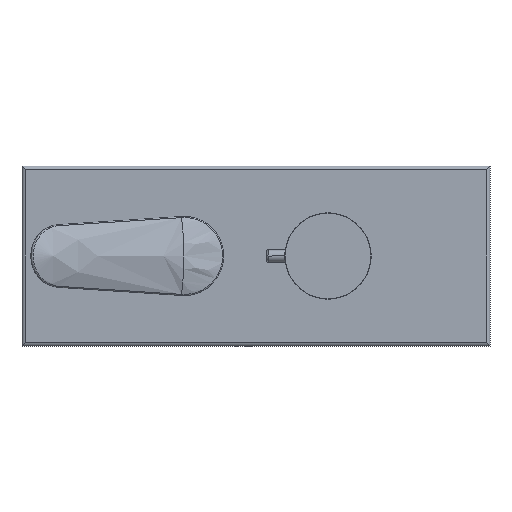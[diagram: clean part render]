
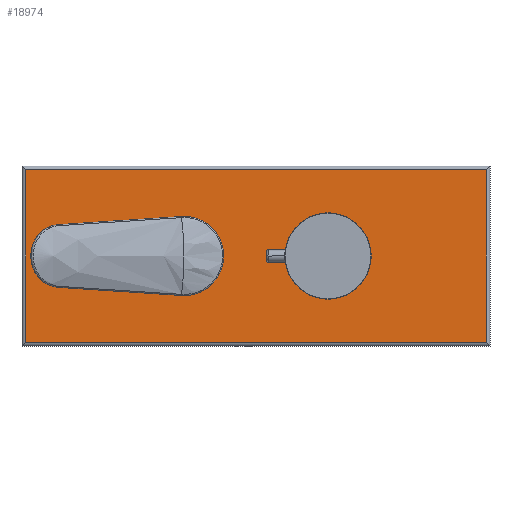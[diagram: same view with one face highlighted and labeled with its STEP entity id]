
A CAD part, left-side view. The second image highlights one B-rep face of the part: STEP entity #18974.
In plain terms, the highlighted planar face has unit normal (-1, 0, 0).
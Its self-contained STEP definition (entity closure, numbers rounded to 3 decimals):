
#1016=CARTESIAN_POINT('',(-7.,40.,0.));
#1017=DIRECTION('',(-1.,0.,0.));
#1018=DIRECTION('',(0.,0.,1.));
#1019=AXIS2_PLACEMENT_3D('',#1016,#1017,#1018);
#1026=DIRECTION('',(0.,0.,-1.));
#1027=VECTOR('',#1026,96.);
#1028=CARTESIAN_POINT('',(-7.,128.,48.));
#1029=LINE('',#1028,#1027);
#1030=DIRECTION('',(0.,1.,0.));
#1031=VECTOR('',#1030,256.);
#1032=CARTESIAN_POINT('',(-7.,-128.,48.));
#1033=LINE('',#1032,#1031);
#1034=DIRECTION('',(0.,0.,1.));
#1035=VECTOR('',#1034,96.);
#1036=CARTESIAN_POINT('',(-7.,-128.,-48.));
#1037=LINE('',#1036,#1035);
#1038=DIRECTION('',(0.,-1.,0.));
#1039=VECTOR('',#1038,256.);
#1040=CARTESIAN_POINT('',(-7.,128.,-48.));
#1041=LINE('',#1040,#1039);
#1202=CARTESIAN_POINT('',(-7.,40.,0.));
#1203=DIRECTION('',(-1.,0.,0.));
#1204=DIRECTION('',(0.,0.,-1.));
#1205=AXIS2_PLACEMENT_3D('',#1202,#1203,#1204);
#1225=CARTESIAN_POINT('',(-7.,-40.,0.));
#1226=DIRECTION('',(-1.,0.,0.));
#1227=DIRECTION('',(0.,0.,1.));
#1228=AXIS2_PLACEMENT_3D('',#1225,#1226,#1227);
#1235=CARTESIAN_POINT('',(-7.,-40.,0.));
#1236=DIRECTION('',(-1.,0.,0.));
#1237=DIRECTION('',(0.,0.,-1.));
#1238=AXIS2_PLACEMENT_3D('',#1235,#1236,#1237);
#15702=CARTESIAN_POINT('',(-7.,128.,48.));
#15703=CARTESIAN_POINT('',(-7.,128.,-48.));
#15704=VERTEX_POINT('',#15702);
#15705=VERTEX_POINT('',#15703);
#15708=CARTESIAN_POINT('',(-7.,-128.,48.));
#15709=VERTEX_POINT('',#15708);
#15712=CARTESIAN_POINT('',(-7.,-128.,-48.));
#15713=VERTEX_POINT('',#15712);
#17969=CARTESIAN_POINT('',(-7.,40.,20.35));
#17970=CARTESIAN_POINT('',(-7.,40.,-20.35));
#17971=VERTEX_POINT('',#17969);
#17972=VERTEX_POINT('',#17970);
#17977=CARTESIAN_POINT('',(-7.,-40.,20.35));
#17978=CARTESIAN_POINT('',(-7.,-40.,-20.35));
#17979=VERTEX_POINT('',#17977);
#17980=VERTEX_POINT('',#17978);
#18948=CARTESIAN_POINT('',(-7.,0.,0.));
#18949=DIRECTION('',(-1.,0.,0.));
#18950=DIRECTION('',(0.,1.,0.));
#18951=AXIS2_PLACEMENT_3D('',#18948,#18949,#18950);
#18952=PLANE('',#18951);
#18954=ORIENTED_EDGE('',*,*,#18953,.F.);
#18956=ORIENTED_EDGE('',*,*,#18955,.F.);
#18958=ORIENTED_EDGE('',*,*,#18957,.F.);
#18960=ORIENTED_EDGE('',*,*,#18959,.F.);
#18961=EDGE_LOOP('',(#18954,#18956,#18958,#18960));
#18962=FACE_OUTER_BOUND('',#18961,.F.);
#18963=ORIENTED_EDGE('',*,*,#18938,.T.);
#18965=ORIENTED_EDGE('',*,*,#18964,.T.);
#18966=EDGE_LOOP('',(#18963,#18965));
#18967=FACE_BOUND('',#18966,.F.);
#18969=ORIENTED_EDGE('',*,*,#18968,.T.);
#18971=ORIENTED_EDGE('',*,*,#18970,.T.);
#18972=EDGE_LOOP('',(#18969,#18971));
#18973=FACE_BOUND('',#18972,.F.);
#18974=ADVANCED_FACE('',(#18962,#18967,#18973),#18952,.T.);
#1020=CIRCLE('',#1019,20.35);
#1206=CIRCLE('',#1205,20.35);
#1229=CIRCLE('',#1228,20.35);
#1239=CIRCLE('',#1238,20.35);
#18938=EDGE_CURVE('',#17971,#17972,#1020,.T.);
#18953=EDGE_CURVE('',#15704,#15705,#1029,.T.);
#18955=EDGE_CURVE('',#15709,#15704,#1033,.T.);
#18957=EDGE_CURVE('',#15713,#15709,#1037,.T.);
#18959=EDGE_CURVE('',#15705,#15713,#1041,.T.);
#18964=EDGE_CURVE('',#17972,#17971,#1206,.T.);
#18968=EDGE_CURVE('',#17979,#17980,#1229,.T.);
#18970=EDGE_CURVE('',#17980,#17979,#1239,.T.);
